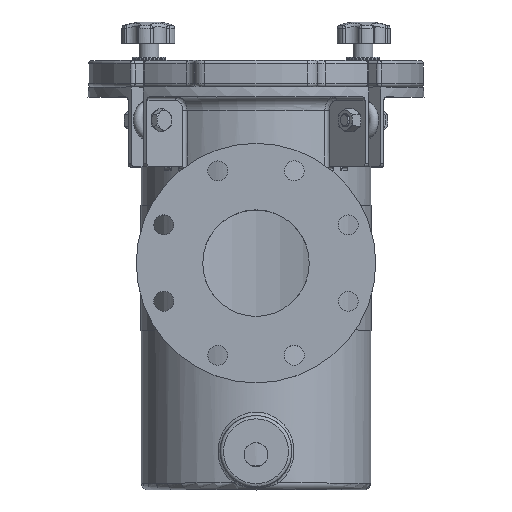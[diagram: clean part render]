
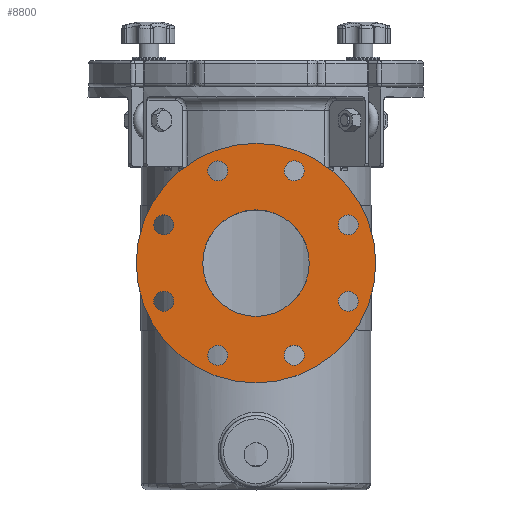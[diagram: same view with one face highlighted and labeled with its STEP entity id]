
A CAD part, top view. The second image highlights one B-rep face of the part: STEP entity #8800.
In plain terms, the highlighted planar face has unit normal (0, 0, 1).
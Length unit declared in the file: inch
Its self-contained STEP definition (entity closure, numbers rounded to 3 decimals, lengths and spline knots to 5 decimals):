
#1183=PLANE('',#9543);
#1796=FACE_BOUND('',#2692,.T.);
#1797=FACE_BOUND('',#2693,.T.);
#1798=FACE_BOUND('',#2694,.T.);
#1799=FACE_BOUND('',#2695,.T.);
#1800=FACE_BOUND('',#2696,.T.);
#1801=FACE_BOUND('',#2697,.T.);
#1802=FACE_BOUND('',#2698,.T.);
#1803=FACE_BOUND('',#2699,.T.);
#1804=FACE_BOUND('',#2700,.T.);
#2049=FACE_OUTER_BOUND('',#2691,.T.);
#2691=EDGE_LOOP('',(#6542));
#2692=EDGE_LOOP('',(#6543));
#2693=EDGE_LOOP('',(#6544));
#2694=EDGE_LOOP('',(#6545));
#2695=EDGE_LOOP('',(#6546));
#2696=EDGE_LOOP('',(#6547));
#2697=EDGE_LOOP('',(#6548));
#2698=EDGE_LOOP('',(#6549));
#2699=EDGE_LOOP('',(#6550));
#2700=EDGE_LOOP('',(#6551));
#3189=CIRCLE('',#9252,2.);
#3337=CIRCLE('',#9526,0.375);
#3338=CIRCLE('',#9528,0.375);
#3339=CIRCLE('',#9530,0.375);
#3340=CIRCLE('',#9532,0.375);
#3341=CIRCLE('',#9534,0.375);
#3342=CIRCLE('',#9536,0.375);
#3343=CIRCLE('',#9538,0.375);
#3344=CIRCLE('',#9540,0.375);
#3345=CIRCLE('',#9542,4.5);
#3777=VERTEX_POINT('',#14425);
#3999=VERTEX_POINT('',#16994);
#4000=VERTEX_POINT('',#16997);
#4001=VERTEX_POINT('',#17000);
#4002=VERTEX_POINT('',#17003);
#4003=VERTEX_POINT('',#17006);
#4004=VERTEX_POINT('',#17009);
#4005=VERTEX_POINT('',#17012);
#4006=VERTEX_POINT('',#17015);
#4007=VERTEX_POINT('',#17018);
#4574=EDGE_CURVE('',#3777,#3777,#3189,.T.);
#4914=EDGE_CURVE('',#3999,#3999,#3337,.T.);
#4915=EDGE_CURVE('',#4000,#4000,#3338,.T.);
#4916=EDGE_CURVE('',#4001,#4001,#3339,.T.);
#4917=EDGE_CURVE('',#4002,#4002,#3340,.T.);
#4918=EDGE_CURVE('',#4003,#4003,#3341,.T.);
#4919=EDGE_CURVE('',#4004,#4004,#3342,.T.);
#4920=EDGE_CURVE('',#4005,#4005,#3343,.T.);
#4921=EDGE_CURVE('',#4006,#4006,#3344,.T.);
#4922=EDGE_CURVE('',#4007,#4007,#3345,.T.);
#6542=ORIENTED_EDGE('',*,*,#4922,.F.);
#6543=ORIENTED_EDGE('',*,*,#4914,.T.);
#6544=ORIENTED_EDGE('',*,*,#4915,.T.);
#6545=ORIENTED_EDGE('',*,*,#4916,.T.);
#6546=ORIENTED_EDGE('',*,*,#4917,.T.);
#6547=ORIENTED_EDGE('',*,*,#4918,.T.);
#6548=ORIENTED_EDGE('',*,*,#4919,.T.);
#6549=ORIENTED_EDGE('',*,*,#4920,.T.);
#6550=ORIENTED_EDGE('',*,*,#4921,.T.);
#6551=ORIENTED_EDGE('',*,*,#4574,.T.);
#8800=ADVANCED_FACE('',(#2049,#1796,#1797,#1798,#1799,#1800,#1801,#1802,
#1803,#1804),#1183,.T.);
#9252=AXIS2_PLACEMENT_3D('',#14426,#10470,#10471);
#9526=AXIS2_PLACEMENT_3D('',#16995,#11122,#11123);
#9528=AXIS2_PLACEMENT_3D('',#16998,#11126,#11127);
#9530=AXIS2_PLACEMENT_3D('',#17001,#11130,#11131);
#9532=AXIS2_PLACEMENT_3D('',#17004,#11134,#11135);
#9534=AXIS2_PLACEMENT_3D('',#17007,#11138,#11139);
#9536=AXIS2_PLACEMENT_3D('',#17010,#11142,#11143);
#9538=AXIS2_PLACEMENT_3D('',#17013,#11146,#11147);
#9540=AXIS2_PLACEMENT_3D('',#17016,#11150,#11151);
#9542=AXIS2_PLACEMENT_3D('',#17019,#11154,#11155);
#9543=AXIS2_PLACEMENT_3D('',#17020,#11156,#11157);
#10470=DIRECTION('center_axis',(0.,0.,-1.));
#10471=DIRECTION('ref_axis',(-1.,0.,0.));
#11122=DIRECTION('center_axis',(0.,0.,-1.));
#11123=DIRECTION('ref_axis',(-0.707,-0.707,0.));
#11126=DIRECTION('center_axis',(0.,0.,-1.));
#11127=DIRECTION('ref_axis',(0.,-1.,0.));
#11130=DIRECTION('center_axis',(0.,0.,-1.));
#11131=DIRECTION('ref_axis',(0.707,-0.707,0.));
#11134=DIRECTION('center_axis',(0.,0.,-1.));
#11135=DIRECTION('ref_axis',(1.,0.,0.));
#11138=DIRECTION('center_axis',(0.,0.,-1.));
#11139=DIRECTION('ref_axis',(0.707,0.707,0.));
#11142=DIRECTION('center_axis',(0.,0.,-1.));
#11143=DIRECTION('ref_axis',(0.,1.,0.));
#11146=DIRECTION('center_axis',(0.,0.,-1.));
#11147=DIRECTION('ref_axis',(-0.707,0.707,0.));
#11150=DIRECTION('center_axis',(0.,0.,-1.));
#11151=DIRECTION('ref_axis',(-1.,0.,0.));
#11154=DIRECTION('center_axis',(0.,0.,-1.));
#11155=DIRECTION('ref_axis',(-1.,0.,0.));
#11156=DIRECTION('center_axis',(0.,0.,1.));
#11157=DIRECTION('ref_axis',(1.,0.,0.));
#14425=CARTESIAN_POINT('',(2.,8.5,9.));
#14426=CARTESIAN_POINT('Origin',(0.,8.5,9.));
#16994=CARTESIAN_POINT('',(-3.19938,10.20023,9.));
#16995=CARTESIAN_POINT('Origin',(-3.46455,9.93506,9.));
#16997=CARTESIAN_POINT('',(-3.46455,7.43994,9.));
#16998=CARTESIAN_POINT('Origin',(-3.46455,7.06494,9.));
#17000=CARTESIAN_POINT('',(-1.70023,5.30062,9.));
#17001=CARTESIAN_POINT('Origin',(-1.43506,5.03545,9.));
#17003=CARTESIAN_POINT('',(1.06006,5.03545,9.));
#17004=CARTESIAN_POINT('Origin',(1.43506,5.03545,9.));
#17006=CARTESIAN_POINT('',(3.19938,6.79977,9.));
#17007=CARTESIAN_POINT('Origin',(3.46455,7.06494,9.));
#17009=CARTESIAN_POINT('',(3.46455,9.56006,9.));
#17010=CARTESIAN_POINT('Origin',(3.46455,9.93506,9.));
#17012=CARTESIAN_POINT('',(1.70023,11.69938,9.));
#17013=CARTESIAN_POINT('Origin',(1.43506,11.96455,9.));
#17015=CARTESIAN_POINT('',(-1.06006,11.96455,9.));
#17016=CARTESIAN_POINT('Origin',(-1.43506,11.96455,9.));
#17018=CARTESIAN_POINT('',(4.5,8.5,9.));
#17019=CARTESIAN_POINT('Origin',(0.,8.5,9.));
#17020=CARTESIAN_POINT('Origin',(0.,8.5,9.));
